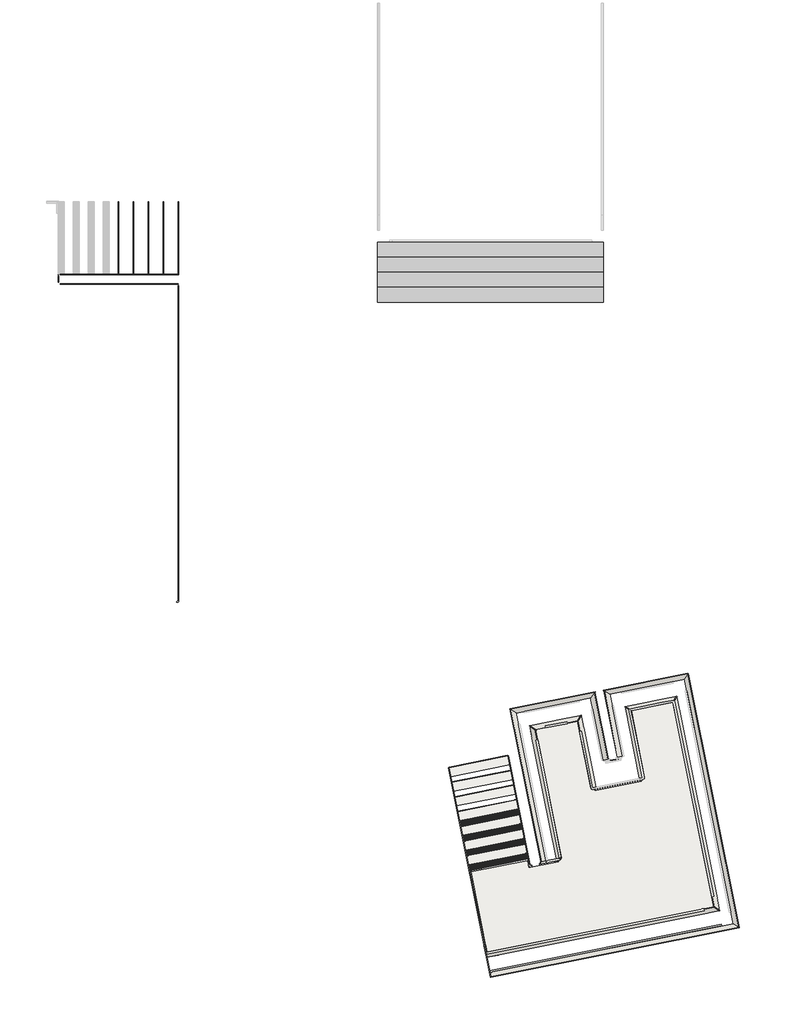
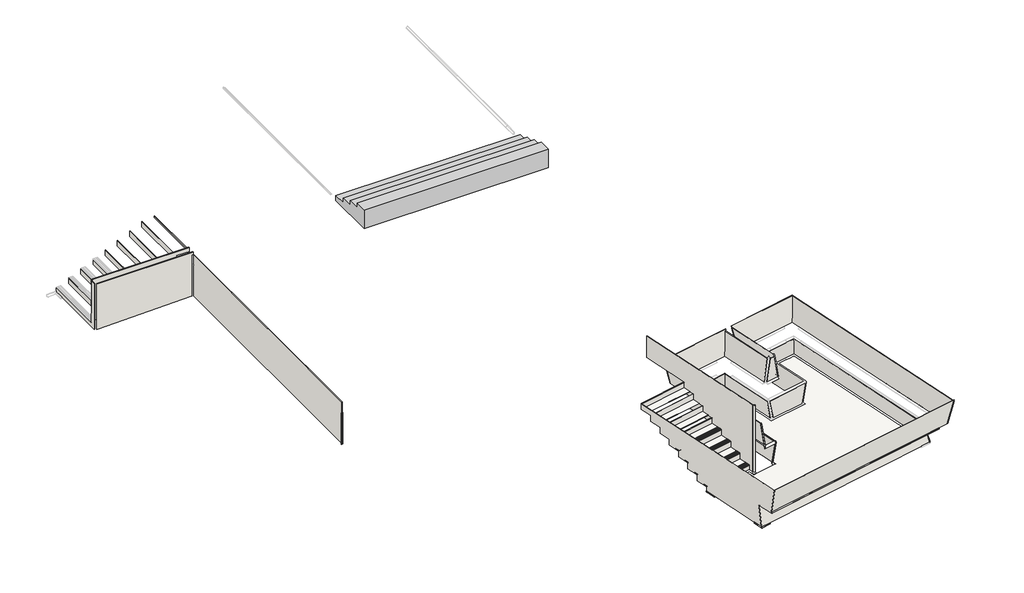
# One storey, part 1 of 2: 24 slabs, 23 walls, 3 proxies, 1 stair.
"""IFC4 building model written with IfcOpenShell, lengths in millimetres."""

from ifc_helpers import new_model, si_unit, point, frame, frame_2d, origin, place, context, project, spatial, polyline, circle_curve, trimmed, segment, composite_curve, outline, extrude, faceted_brep, transform, mapped, element, save
from components import pieza_115_aqua_azul_anti_slip_2f38e3b8, pieza_116_aqua_azul_liso_e9a23e22, slab_230d59c4, pieza_112_aqua_azul_liso_81c370b3, pieza_112_aqua_azul_liso_8ca1fe8c, pieza_112_aqua_azul_liso_170225c9, pieza_112_aqua_azul_liso_541d37f0, pieza_138_aqua_azul_liso_3ee0c762, pieza_138_aqua_azul_liso_c45b5ecf, pieza_138_aqua_azul_liso_85f08b2a, pieza_138_aqua_azul_liso_98b1347a, pieza_138_aqua_azul_liso_3f5a14d7, pieza_138_aqua_azul_liso_3f46d53b, escalera_p2_escalera_p2_1fe4a949, wall_3dee04b9

model = new_model("IFC4")

# Units and contexts
model_context = context("Model", 3, world=origin())
ifc_project = project(units=[si_unit("LENGTHUNIT", "METRE", prefix="MILLI")], contexts=[model_context])

# Site, building, storey
site = spatial("IfcSite", under=ifc_project)
building = spatial("IfcBuilding", under=site)
storey = spatial("IfcBuildingStorey", under=building, Name="4_NFondo1P1-P3 -1.2", Elevation=-1200.4)

# Proxies
placement = place(None, origin())
pieza_115_aqua_azul_anti_slip_shape = pieza_115_aqua_azul_anti_slip_2f38e3b8(model_context)
element("IfcBuildingElementProxy", 1, Name="ROSA GRES_115 : Pieza 115_Aqua_Azul_Anti-Slip", ObjectType="ROSA GRES_115 : Pieza 115_Aqua_Azul_Anti-Slip", at=placement, inside=storey, context=model_context, shape_type="MappedRepresentation", body=[
    mapped(pieza_115_aqua_azul_anti_slip_shape, transform((33107.40556, -40332.8949937, -690.4), x_axis=(0.9805675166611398, 0.19618191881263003, 0.0), y_axis=(-0.19618191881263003, 0.9805675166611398, 0.0), z_axis=(0.0, 0.0, 1.0))),
])
pieza_116_aqua_azul_liso_shape = pieza_116_aqua_azul_liso_e9a23e22(model_context)
element("IfcBuildingElementProxy", 2, Name="ROSA GRES_116 : Pieza 116_Aqua_Azul_Liso", ObjectType="ROSA GRES_116 : Pieza 116_Aqua_Azul_Liso", at=placement, inside=storey, context=model_context, shape_type="MappedRepresentation", body=[
    mapped(pieza_116_aqua_azul_liso_shape, transform((33015.1290333, -40351.3838609, -1210.5), x_axis=(0.9805674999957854, 0.1961820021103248, 0.0), y_axis=(-0.1961820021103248, 0.9805674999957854, 0.0), z_axis=(0.0, 0.0, 1.0))),
])
element("IfcBuildingElementProxy", 3, Name="ROSA GRES_116 : Pieza 116_Aqua_Azul_Liso", ObjectType="ROSA GRES_116 : Pieza 116_Aqua_Azul_Liso", at=placement, inside=storey, context=model_context, shape_type="MappedRepresentation", body=[
    mapped(pieza_116_aqua_azul_liso_shape, transform((32548.4612883, -40444.7500111, -1210.5), x_axis=(0.19618200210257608, -0.9805674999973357, 0.0), y_axis=(0.9805674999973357, 0.19618200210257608, 0.0), z_axis=(0.0, 0.0, 1.0))),
])

# Slabs
element("IfcSlab", 4, ObjectType="Pieza 244 G1_Patrón Recto_Aqua_Azul_Liso", at=placement, inside=storey, context=model_context, shape_type="SweptSolid", body=[
    extrude(outline(polyline([(32464.1269979, -40380.0372934), (32493.5542981, -40527.1224773), (33097.5014941, -40406.2908466), (32559.1513257, -37715.4790276), (33518.3634083, -37523.5696856), (33811.0101854, -38986.2932905), (34763.9631262, -38795.6362135), (34471.3163448, -37332.9125872), (35430.469737, -37141.0149874), (36273.1258379, -41352.8256063), (31680.0653011, -42271.7581672), (31346.3321381, -40603.6742554), (32464.1269979, -40380.0372934)])), frame((0.0, 0.0, -1209.4), z_axis=(0.0, 0.0, 1.0), x_axis=(1.0, 0.0, 0.0)), (0.0, 0.0, 1.0), 9.0),
])
element("IfcSlab", 5, ObjectType="Pieza 244 G1_Patrón Recto_Aqua_Azul_Anti-Slip", at=placement, inside=storey, context=model_context, shape_type="SweptSolid", body=[
    extrude(outline(polyline([(32464.7133799, -40229.9133646), (31288.0323353, -40465.3316695), (31252.1343545, -40285.9043577), (32428.8153975, -40050.4860531), (32464.7133799, -40229.9133646)])), frame((0.0, 0.0, -1059.4), z_axis=(0.0, 0.0, 1.0), x_axis=(1.0, 0.0, 0.0)), (0.0, 0.0, 1.0), 9.0),
])
element("IfcSlab", 6, ObjectType="Pieza 244 G1_Patrón Recto_Aqua_Azul_Anti-Slip", at=placement, inside=storey, context=model_context, shape_type="SweptSolid", body=[
    extrude(outline(polyline([(32405.86825, -39935.7903614), (31229.1872054, -40171.2086663), (31193.2892246, -39991.7813545), (32369.9702676, -39756.3630499), (32405.86825, -39935.7903614)])), frame((0.0, 0.0, -909.4), z_axis=(0.0, 0.0, 1.0), x_axis=(1.0, 0.0, 0.0)), (0.0, 0.0, 1.0), 9.0),
])
element("IfcSlab", 7, ObjectType="Pieza 244 G1_Patrón Recto_Aqua_Azul_Anti-Slip", at=placement, inside=storey, context=model_context, shape_type="SweptSolid", body=[
    extrude(outline(polyline([(32347.0136662, -39641.620105), (31170.3326215, -39877.0384099), (31134.4346407, -39697.6110981), (32311.1156837, -39462.1927935), (32347.0136662, -39641.620105)])), frame((0.0, 0.0, -759.4), z_axis=(0.0, 0.0, 1.0), x_axis=(1.0, 0.0, 0.0)), (0.0, 0.0, 1.0), 9.0),
])
element("IfcSlab", 8, ObjectType="Pieza 244 G1_Patrón Recto_Aqua_Azul_Anti-Slip", at=placement, inside=storey, context=model_context, shape_type="SweptSolid", body=[
    extrude(outline(polyline([(32288.1590835, -39347.4498545), (31111.4780389, -39582.8681593), (31075.580058, -39403.4408475), (32252.261101, -39168.022543), (32288.1590835, -39347.4498545)])), frame((0.0, 0.0, -609.4), z_axis=(0.0, 0.0, 1.0), x_axis=(1.0, 0.0, 0.0)), (0.0, 0.0, 1.0), 9.0),
])
element("IfcSlab", 9, ObjectType="Pieza 244 G1_Patrón Recto_Aqua_Azul_Anti-Slip", at=placement, inside=storey, context=model_context, shape_type="SweptSolid", body=[
    extrude(outline(polyline([(32229.304502, -39053.2796099), (31052.6234574, -39288.6979148), (31016.7254765, -39109.270603), (32193.4065196, -38873.8522985), (32229.304502, -39053.2796099)])), frame((0.0, 0.0, -459.4), z_axis=(0.0, 0.0, 1.0), x_axis=(1.0, 0.0, 0.0)), (0.0, 0.0, 1.0), 9.0),
])
element("IfcSlab", 10, ObjectType="Pieza 244 G1_Patrón Recto_Aqua_Azul_Anti-Slip", at=placement, inside=storey, context=model_context, shape_type="SweptSolid", body=[
    extrude(outline(polyline([(32170.4499169, -38759.1093475), (30993.7688723, -38994.5276524), (30957.8708915, -38815.1003406), (32134.5519345, -38579.682036), (32170.4499169, -38759.1093475)])), frame((0.0, 0.0, -309.4), z_axis=(0.0, 0.0, 1.0), x_axis=(1.0, 0.0, 0.0)), (0.0, 0.0, 1.0), 9.0),
])
element("IfcSlab", 11, ObjectType="Pieza 244 G1_Patrón Recto_Aqua_Azul_Anti-Slip", at=placement, inside=storey, context=model_context, shape_type="SweptSolid", body=[
    extrude(outline(polyline([(32111.5953368, -38464.93911), (30934.9142922, -38700.3574148), (30899.0163114, -38520.930103), (32075.6973544, -38285.5117985), (32111.5953368, -38464.93911)])), frame((0.0, 0.0, -159.4), z_axis=(0.0, 0.0, 1.0), x_axis=(1.0, 0.0, 0.0)), (0.0, 0.0, 1.0), 9.0),
])
slab_shape = slab_230d59c4(model_context)
element("IfcSlab", 12, ObjectType="ROSA GRES_003 : Pieza 003_Aqua_Marino_Anti-Slip", at=placement, inside=storey, context=model_context, shape_type="MappedRepresentation", body=[
    mapped(slab_shape, transform((31134.7979739, -39699.4269035, -609.4), x_axis=(0.980567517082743, 0.19618191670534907, 0.0), y_axis=(-0.19618191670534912, 0.9805675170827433, 0.0), z_axis=(0.0, 0.0, 1.0000000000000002))),
])
element("IfcSlab", 13, ObjectType="ROSA GRES_003 : Pieza 003_Aqua_Marino_Anti-Slip", at=placement, inside=storey, context=model_context, shape_type="MappedRepresentation", body=[
    mapped(slab_shape, transform((31193.6525605, -39993.5971737, -759.4), x_axis=(0.980567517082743, 0.19618191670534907, 0.0), y_axis=(-0.19618191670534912, 0.9805675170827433, 0.0), z_axis=(0.0, 0.0, 1.0000000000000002))),
])
element("IfcSlab", 14, ObjectType="ROSA GRES_003 : Pieza 003_Aqua_Marino_Anti-Slip", at=placement, inside=storey, context=model_context, shape_type="MappedRepresentation", body=[
    mapped(slab_shape, transform((31252.5071438, -40287.7674272, -909.4), x_axis=(0.980567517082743, 0.19618191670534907, 0.0), y_axis=(-0.19618191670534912, 0.9805675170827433, 0.0), z_axis=(0.0, 0.0, 1.0000000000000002))),
])
element("IfcSlab", 15, ObjectType="ROSA GRES_003 : Pieza 003_Aqua_Marino_Anti-Slip", at=placement, inside=storey, context=model_context, shape_type="MappedRepresentation", body=[
    mapped(slab_shape, transform((31311.3617304, -40581.9376974, -1059.4), x_axis=(0.980567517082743, 0.19618191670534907, 0.0), y_axis=(-0.19618191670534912, 0.9805675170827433, 0.0), z_axis=(0.0, 0.0, 1.0000000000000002))),
])
pieza_112_aqua_azul_liso_shape = pieza_112_aqua_azul_liso_81c370b3(model_context)
element("IfcSlab", 16, ObjectType="ROSA GRES_112 (corte) : Pieza 112_Aqua_Azul_Liso", at=placement, inside=storey, context=model_context, shape_type="MappedRepresentation", body=[
    mapped(pieza_112_aqua_azul_liso_shape, transform((31600.8000566, -42079.4624868, -1210.5), x_axis=(0.19618192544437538, -0.9805675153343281, 0.0), y_axis=(0.9805675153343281, 0.19618192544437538, 0.0), z_axis=(0.0, 0.0, 1.0))),
])
element("IfcSlab", 17, ObjectType="ROSA GRES_112 (corte) : Pieza 112_Aqua_Azul_Liso", at=placement, inside=storey, context=model_context, shape_type="MappedRepresentation", body=[
    mapped(pieza_112_aqua_azul_liso_shape, transform((31537.9628671, -40524.5420283, -1210.5), x_axis=(-0.9805675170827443, -0.19618191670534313, 0.0), y_axis=(0.19618191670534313, -0.9805675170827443, 0.0), z_axis=(0.0, 0.0, 1.0))),
])
pieza_112_aqua_azul_liso_2_shape = pieza_112_aqua_azul_liso_8ca1fe8c(model_context)
element("IfcSlab", 18, ObjectType="ROSA GRES_112 (corte) : Pieza 112_Aqua_Azul_Liso", at=placement, inside=storey, context=model_context, shape_type="MappedRepresentation", body=[
    mapped(pieza_112_aqua_azul_liso_2_shape, transform((31887.2392776, -42271.1016211, -1210.5), x_axis=(-0.9805675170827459, -0.19618191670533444, 0.0), y_axis=(0.19618191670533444, -0.9805675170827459, 0.0), z_axis=(0.0, 0.0, 1.0))),
])
element("IfcSlab", 19, ObjectType="ROSA GRES_112 (corte) : Pieza 112_Aqua_Azul_Liso", at=placement, inside=storey, context=model_context, shape_type="MappedRepresentation", body=[
    mapped(pieza_112_aqua_azul_liso_2_shape, transform((31347.0246767, -40811.0281314, -1210.5), x_axis=(-0.19618191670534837, 0.9805675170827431, 0.0), y_axis=(-0.9805675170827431, -0.19618191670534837, 0.0), z_axis=(0.0, 0.0, 1.0))),
])
pieza_112_aqua_azul_liso_3_shape = pieza_112_aqua_azul_liso_170225c9(model_context)
element("IfcSlab", 20, ObjectType="ROSA GRES_112 : Pieza 112_Aqua_Azul_Liso", at=placement, inside=storey, context=model_context, shape_type="MappedRepresentation", body=[
    mapped(pieza_112_aqua_azul_liso_3_shape, transform((25487.3567944, -35211.4665095, -357.0549087), x_axis=(0.0, 0.0, -1.0), y_axis=(-1.0, 0.0, 0.0), z_axis=(0.0, 1.0, 0.0))),
])
pieza_112_aqua_azul_liso_4_shape = pieza_112_aqua_azul_liso_541d37f0(model_context)
element("IfcSlab", 21, ObjectType="ROSA GRES_112 : Pieza 112_Aqua_Azul_Liso", at=placement, inside=storey, context=model_context, shape_type="MappedRepresentation", body=[
    mapped(pieza_112_aqua_azul_liso_4_shape, transform((31720.1473403, -42625.8744607, -660.5), x_axis=(0.9805675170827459, 0.19618191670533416, 0.0), y_axis=(-0.19618191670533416, 0.9805675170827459, 0.0), z_axis=(0.0, 0.0, 1.0))),
])
pieza_138_aqua_azul_liso_shape = pieza_138_aqua_azul_liso_3ee0c762(model_context)
element("IfcSlab", 22, ObjectType="ROSA GRES_138 : Pieza 138_Aqua_Azul_Liso", at=placement, inside=storey, context=model_context, shape_type="MappedRepresentation", body=[
    mapped(pieza_138_aqua_azul_liso_shape, transform((31646.2301571, -42255.7853273, -690.4), x_axis=(0.9805675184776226, 0.19618190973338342, 0.0), y_axis=(0.0, 0.0, -1.0000000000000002), z_axis=(-0.19618190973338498, 0.9805675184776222, 0.0))),
])
pieza_138_aqua_azul_liso_2_shape = pieza_138_aqua_azul_liso_c45b5ecf(model_context)
element("IfcSlab", 23, ObjectType="ROSA GRES_138 : Pieza 138_Aqua_Azul_Liso", at=placement, inside=storey, context=model_context, shape_type="MappedRepresentation", body=[
    mapped(pieza_138_aqua_azul_liso_2_shape, transform((33014.286461, -40351.5253108, -1170.8346375), x_axis=(0.18867536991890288, 0.03774823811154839, 0.9813137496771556), y_axis=(0.1961819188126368, -0.9805675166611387, 0.0), z_axis=(0.9622443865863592, 0.19251601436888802, -0.19241446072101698))),
])
pieza_138_aqua_azul_liso_3_shape = pieza_138_aqua_azul_liso_85f08b2a(model_context)
element("IfcSlab", 24, ObjectType="ROSA GRES_138 : Pieza 138_Aqua_Azul_Liso", at=placement, inside=storey, context=model_context, shape_type="MappedRepresentation", body=[
    mapped(pieza_138_aqua_azul_liso_3_shape, transform((33107.4055598, -40332.8949937, -690.4), x_axis=(-0.19618190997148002, 0.9805675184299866, 0.0), y_axis=(-0.9805675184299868, -0.19618190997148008, 0.0), z_axis=(0.0, 0.0, 1.0000000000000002))),
])
pieza_138_aqua_azul_liso_4_shape = pieza_138_aqua_azul_liso_98b1347a(model_context)
element("IfcSlab", 25, ObjectType="ROSA GRES_138 : Pieza 138_Aqua_Azul_Liso", at=placement, inside=storey, context=model_context, shape_type="MappedRepresentation", body=[
    mapped(pieza_138_aqua_azul_liso_4_shape, transform((33107.4055598, -40332.8949937, -690.4), x_axis=(-0.9805675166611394, -0.19618191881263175, 0.0), y_axis=(0.1961819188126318, -0.9805675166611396, 0.0), z_axis=(0.0, 0.0, 1.0000000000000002))),
])
pieza_138_aqua_azul_liso_5_shape = pieza_138_aqua_azul_liso_3f5a14d7(model_context)
element("IfcSlab", 26, ObjectType="ROSA GRES_138 : Pieza 138_Aqua_Azul_Liso", at=placement, inside=storey, context=model_context, shape_type="MappedRepresentation", body=[
    mapped(pieza_138_aqua_azul_liso_5_shape, transform((32704.7662203, -40413.4510741, -25.6674653), x_axis=(0.15514921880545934, 0.031040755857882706, -0.9874032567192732), y_axis=(-0.1961819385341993, 0.9805675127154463, 8.330643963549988e-08), z_axis=(0.9682155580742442, 0.1937106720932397, 0.15822391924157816))),
])
pieza_138_aqua_azul_liso_6_shape = pieza_138_aqua_azul_liso_3f46d53b(model_context)
element("IfcSlab", 27, ObjectType="ROSA GRES_138 : Pieza 138_Aqua_Azul_Liso", at=placement, inside=storey, context=model_context, shape_type="MappedRepresentation", body=[
    mapped(pieza_138_aqua_azul_liso_6_shape, transform((32548.4613093, -40444.7500072, 559.6), x_axis=(0.0, 0.0, -1.0), y_axis=(0.1961819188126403, -0.9805675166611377, 0.0), z_axis=(-0.9805675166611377, -0.1961819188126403, 0.0))),
])

# Stair
escalera_p2_escalera_p2_shape = escalera_p2_escalera_p2_1fe4a949(model_context)
element("IfcStair", 28, ObjectType="Escalera P2 : Escalera P2", at=placement, inside=storey, context=model_context, shape_type="MappedRepresentation", body=[
    mapped(escalera_p2_escalera_p2_shape, transform((0.0, 0.0, 0.0), x_axis=(1.0, 0.0, 0.0), y_axis=(0.0, 1.0, 0.0), z_axis=(0.0, 0.0, 1.0))),
])

# Walls
element("IfcWall", 29, ObjectType="Pieza 244 G1_Patrón Recto_Aqua_Azul_Liso", at=placement, inside=storey, context=model_context, shape_type="SweptSolid", body=[
    extrude(outline(polyline([(25477.4363125, -35171.4665095), (25477.4363125, -28881.4665095), (25486.4363125, -28881.4665095), (25486.4363125, -35171.4665095), (25477.4363125, -35171.4665095)])), frame((0.0, 0.0, -1170.4), z_axis=(0.0, 0.0, 1.0), x_axis=(1.0, 0.0, 0.0)), (0.0, 0.0, 1.0), 1063.3450913),
])
element("IfcWall", 30, ObjectType="Pieza 244 G1_Patrón Recto_Aqua_Azul_Liso", at=placement, inside=storey, context=model_context, shape_type="SweptSolid", body=[
    extrude(outline(polyline([(-1227.3361664, 23117.3978394), (-1171.1286481, 25447.4377977), (-107.0549087, 25447.4377977), (-107.0549087, 25477.4363125), (-40.4, 25477.4363125), (-40.4, 23117.3978394), (-1227.3361664, 23117.3978394)])), frame((0.0, -28851.493098, 0.0), z_axis=(0.0, 1.0, 0.0), x_axis=(0.0, 0.0, 1.0)), (0.0, 0.0, 1.0), 9.0),
])
element("IfcWall", 31, ObjectType="Pieza 244 G1_Patrón Recto_Aqua_Azul_Liso", at=placement, inside=storey, context=model_context, shape_type="SweptSolid", body=[
    extrude(outline(polyline([(-1117.9281195, 23117.4363125), (-1117.9281195, 23377.3939906), (-987.0881195, 23377.3939906), (-987.0881195, 23677.3939906), (-847.2481195, 23677.3939906), (-847.2481195, 23977.3939906), (-707.4081195, 23977.3939906), (-707.4081195, 24277.3939906), (-567.5681195, 24277.3939906), (-567.5681195, 24577.3939906), (-427.7281195, 24577.3939906), (-427.7281195, 24877.3939906), (-287.8881195, 24877.3939906), (-287.8881195, 25177.3939906), (-148.0481195, 25177.3939906), (-148.0481195, 25491.9363125), (-40.4, 25491.9363125), (-40.4, 23117.4363125), (-1117.9281195, 23117.4363125)])), frame((0.0, -28660.493098, 0.0), z_axis=(0.0, 1.0, 0.0), x_axis=(0.0, 0.0, 1.0)), (0.0, 0.0, 1.0), 9.0),
])
element("IfcWall", 32, ObjectType="Pieza 244 G1_Patrón Recto_Aqua_Azul_Liso", at=placement, inside=storey, context=model_context, shape_type="Brep", body=[
    faceted_brep([(23077.4363125, -27201.493098, -1230.4), (23077.4363125, -28811.5196866, -1230.4), (23077.4363125, -28811.5196866, -40.4), (23077.4363125, -28691.493098, -40.4), (23077.4363125, -28691.493098, -1126.9281195), (23077.4363125, -27201.493098, -1126.9281195), (23086.4363125, -27201.493098, -1230.4), (23086.4363125, -27201.493098, -1228.2026674), (23086.4363125, -27201.493098, -1126.9281195), (23086.4363125, -28691.493098, -1126.9281195), (23086.4363125, -28691.493098, -40.4), (23086.4363125, -28811.5196866, -40.4), (23086.4363125, -28811.5196866, -1230.4)], [[[0, 1, 2, 3, 4, 5]], [[6, 7, 8, 9, 10, 11, 12]], [[1, 0, 6, 12]], [[2, 1, 12, 11]], [[3, 2, 11, 10]], [[4, 3, 10, 9]], [[5, 4, 9, 8]], [[0, 5, 8, 7, 6]]]),
])
element("IfcWall", 33, ObjectType="Pieza 244 G1_Patrón Recto_Aqua_Azul_Liso", at=placement, inside=storey, context=model_context, shape_type="SweptSolid", body=[
    extrude(outline(polyline([(23377.3939906, -28651.493098), (23377.3939906, -27201.5439999), (23386.3939906, -27201.5439999), (23386.3939906, -28651.493098), (23377.3939906, -28651.493098)])), frame((0.0, 0.0, -1126.9281195), z_axis=(0.0, 0.0, 1.0), x_axis=(1.0, 0.0, 0.0)), (0.0, 0.0, 1.0), 139.84),
])
element("IfcWall", 34, ObjectType="Pieza 244 G1_Patrón Recto_Aqua_Azul_Liso", at=placement, inside=storey, context=model_context, shape_type="SweptSolid", body=[
    extrude(outline(polyline([(23677.3939906, -28651.493098), (23677.3939906, -27201.5439999), (23686.3939906, -27201.5439999), (23686.3939906, -28651.493098), (23677.3939906, -28651.493098)])), frame((0.0, 0.0, -987.0881195), z_axis=(0.0, 0.0, 1.0), x_axis=(1.0, 0.0, 0.0)), (0.0, 0.0, 1.0), 139.84),
])
element("IfcWall", 35, ObjectType="Pieza 244 G1_Patrón Recto_Aqua_Azul_Liso", at=placement, inside=storey, context=model_context, shape_type="SweptSolid", body=[
    extrude(outline(polyline([(23977.3939906, -28651.493098), (23977.3939906, -27201.5439999), (23986.3939906, -27201.5439999), (23986.3939906, -28651.493098), (23977.3939906, -28651.493098)])), frame((0.0, 0.0, -847.2481195), z_axis=(0.0, 0.0, 1.0), x_axis=(1.0, 0.0, 0.0)), (0.0, 0.0, 1.0), 139.84),
])
element("IfcWall", 36, ObjectType="Pieza 244 G1_Patrón Recto_Aqua_Azul_Liso", at=placement, inside=storey, context=model_context, shape_type="SweptSolid", body=[
    extrude(outline(polyline([(24277.3939906, -28651.493098), (24277.3939906, -27201.5439999), (24286.3939906, -27201.5439999), (24286.3939906, -28651.493098), (24277.3939906, -28651.493098)])), frame((0.0, 0.0, -707.4081195), z_axis=(0.0, 0.0, 1.0), x_axis=(1.0, 0.0, 0.0)), (0.0, 0.0, 1.0), 139.84),
])
element("IfcWall", 37, ObjectType="Pieza 244 G1_Patrón Recto_Aqua_Azul_Liso", at=placement, inside=storey, context=model_context, shape_type="SweptSolid", body=[
    extrude(outline(polyline([(24577.3939906, -28651.493098), (24577.3939906, -27201.5439999), (24586.3939906, -27201.5439999), (24586.3939906, -28651.493098), (24577.3939906, -28651.493098)])), frame((0.0, 0.0, -567.5681195), z_axis=(0.0, 0.0, 1.0), x_axis=(1.0, 0.0, 0.0)), (0.0, 0.0, 1.0), 139.84),
])
element("IfcWall", 38, ObjectType="Pieza 244 G1_Patrón Recto_Aqua_Azul_Liso", at=placement, inside=storey, context=model_context, shape_type="SweptSolid", body=[
    extrude(outline(polyline([(24877.3939906, -28651.493098), (24877.3939906, -27201.5439999), (24886.3939906, -27201.5439999), (24886.3939906, -28651.493098), (24877.3939906, -28651.493098)])), frame((0.0, 0.0, -427.7281195), z_axis=(0.0, 0.0, 1.0), x_axis=(1.0, 0.0, 0.0)), (0.0, 0.0, 1.0), 139.84),
])
element("IfcWall", 39, ObjectType="Pieza 244 G1_Patrón Recto_Aqua_Azul_Liso", at=placement, inside=storey, context=model_context, shape_type="SweptSolid", body=[
    extrude(outline(polyline([(25177.3939906, -28651.493098), (25177.3939906, -27201.5439999), (25186.3939906, -27201.5439999), (25186.3939906, -28651.493098), (25177.3939906, -28651.493098)])), frame((0.0, 0.0, -287.8881195), z_axis=(0.0, 0.0, 1.0), x_axis=(1.0, 0.0, 0.0)), (0.0, 0.0, 1.0), 139.84),
])
element("IfcWall", 40, ObjectType="Pieza 244 G1_Patrón Recto_Aqua_Azul_Liso", at=placement, inside=storey, context=model_context, shape_type="SweptSolid", body=[
    extrude(outline(polyline([(25477.4363125, -28651.493098), (25477.4363125, -27201.5439999), (25486.4363125, -27201.5439999), (25486.4363125, -28651.493098), (25477.4363125, -28651.493098)])), frame((0.0, 0.0, -148.0481195), z_axis=(0.0, 0.0, 1.0), x_axis=(1.0, 0.0, 0.0)), (0.0, 0.0, 1.0), 40.9932109),
])
element("IfcWall", 41, ObjectType="Pieza 244 G1_Patrón Recto_Aqua_Azul_Liso", at=placement, inside=storey, context=model_context, shape_type="SweptSolid", body=[
    extrude(outline(composite_curve([segment(polyline([(-182.9831624, 0.0), (117.0168434, 0.0), (117.0168434, 150.0), (417.0168525, 150.0), (417.0168525, 300.0), (717.0168434, 300.0), (717.0168434, 450.0), (1017.0168525, 450.0), (1017.0168525, 600.0), (1317.0168434, 600.0), (1317.0168434, 750.0), (1617.0168434, 750.0), (1617.0168434, 900.0), (1917.0168434, 900.0), (1917.0168434, 1011.0), (3678.1921151, 1011.0), (3585.8844367, 531.0000698)]), True, "CONTINUOUS"), segment(trimmed(circle_curve(frame_2d((3625.8844741, 531.0000698)), 40.0000375), [point((3585.8844367, 531.0000698))], [point((3625.8844741, 491.0000324))], True, "CARTESIAN"), True, "CONTINUOUS"), segment(polyline([(3625.8844741, 491.0000324), (3960.5333935, 491.0000324)]), True, "CONTINUOUS"), segment(trimmed(circle_curve(frame_2d((3963.2874674, 461.1044605)), 30.0221609), [point((3960.5333935, 491.0000324))], [point((3993.3095477, 461.0349092))], False, "CARTESIAN"), True, "CONTINUOUS"), segment(polyline([(3993.3095477, 461.0349092), (4088.6128212, -147.0), (-182.9831624, -147.0), (-182.9831624, 0.0)]), True, "CONTINUOUS")], self_intersect=False)), frame((30926.0892341, -38702.1230422, -159.4), z_axis=(0.9805675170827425, 0.19618191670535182, 0.0), x_axis=(0.19618191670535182, -0.9805675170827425, 0.0)), (0.0, 0.0, 1.0), 9.0),
])
element("IfcWall", 42, ObjectType="Pieza 244 G1_Patrón Recto_Aqua_Azul_Liso", at=placement, inside=storey, context=model_context, shape_type="SweptSolid", body=[
    extrude(outline(polyline([(32487.6794228, -40344.7035359), (31310.9983811, -40580.1218511), (31309.2327438, -40571.2967434), (32485.9137855, -40335.8784283), (32487.6794228, -40344.7035359)])), frame((0.0, 0.0, -1170.4), z_axis=(0.0, 0.0, 1.0), x_axis=(1.0, 0.0, 0.0)), (0.0, 0.0, 1.0), 111.0),
])
element("IfcWall", 43, ObjectType="Pieza 244 G1_Patrón Recto_Aqua_Azul_Liso", at=placement, inside=storey, context=model_context, shape_type="SweptSolid", body=[
    extrude(outline(polyline([(32428.82485, -40050.5332803), (31252.1438083, -40285.9515955), (31250.378171, -40277.1264879), (32427.0592126, -40041.7081727), (32428.82485, -40050.5332803)])), frame((0.0, 0.0, -1059.4), z_axis=(0.0, 0.0, 1.0), x_axis=(1.0, 0.0, 0.0)), (0.0, 0.0, 1.0), 150.0),
])
element("IfcWall", 44, ObjectType="Pieza 244 G1_Patrón Recto_Aqua_Azul_Liso", at=placement, inside=storey, context=model_context, shape_type="SweptSolid", body=[
    extrude(outline(polyline([(32369.9702667, -39756.3630269), (31193.2892251, -39991.781342), (31191.5235877, -39982.9562344), (32368.2046294, -39747.5379192), (32369.9702667, -39756.3630269)])), frame((0.0, 0.0, -909.4), z_axis=(0.0, 0.0, 1.0), x_axis=(1.0, 0.0, 0.0)), (0.0, 0.0, 1.0), 150.0),
])
element("IfcWall", 45, ObjectType="Pieza 244 G1_Patrón Recto_Aqua_Azul_Liso", at=placement, inside=storey, context=model_context, shape_type="SweptSolid", body=[
    extrude(outline(polyline([(32311.1156852, -39462.1927823), (31134.4346436, -39697.6110975), (31132.6690062, -39688.7859899), (32309.3500479, -39453.3676747), (32311.1156852, -39462.1927823)])), frame((0.0, 0.0, -759.4), z_axis=(0.0, 0.0, 1.0), x_axis=(1.0, 0.0, 0.0)), (0.0, 0.0, 1.0), 150.0),
])
element("IfcWall", 46, ObjectType="Pieza 244 G1_Patrón Recto_Aqua_Azul_Liso", at=placement, inside=storey, context=model_context, shape_type="SweptSolid", body=[
    extrude(outline(polyline([(32252.2611002, -39168.0225199), (31075.5800585, -39403.4408351), (31073.8144212, -39394.6157275), (32250.4954628, -39159.1974123), (32252.2611002, -39168.0225199)])), frame((0.0, 0.0, -609.4), z_axis=(0.0, 0.0, 1.0), x_axis=(1.0, 0.0, 0.0)), (0.0, 0.0, 1.0), 150.0),
])
element("IfcWall", 47, ObjectType="Pieza 244 G1_Patrón Recto_Aqua_Azul_Liso", at=placement, inside=storey, context=model_context, shape_type="SweptSolid", body=[
    extrude(outline(polyline([(32193.4065187, -38873.8522754), (31016.725477, -39109.2705906), (31014.9598397, -39100.4454829), (32191.6408813, -38865.0271678), (32193.4065187, -38873.8522754)])), frame((0.0, 0.0, -459.4), z_axis=(0.0, 0.0, 1.0), x_axis=(1.0, 0.0, 0.0)), (0.0, 0.0, 1.0), 150.0),
])
element("IfcWall", 48, ObjectType="Pieza 244 G1_Patrón Recto_Aqua_Azul_Liso", at=placement, inside=storey, context=model_context, shape_type="SweptSolid", body=[
    extrude(outline(polyline([(32134.5519336, -38579.682013), (30957.870892, -38815.1003282), (30956.1052546, -38806.2752205), (32132.7862963, -38570.8569053), (32134.5519336, -38579.682013)])), frame((0.0, 0.0, -309.4), z_axis=(0.0, 0.0, 1.0), x_axis=(1.0, 0.0, 0.0)), (0.0, 0.0, 1.0), 150.0),
])
element("IfcWall", 49, ObjectType="Pieza 244 G1_Patrón Recto_Aqua_Azul_Liso", at=placement, inside=storey, context=model_context, shape_type="SweptSolid", body=[
    extrude(outline(polyline([(32075.6973503, -38285.5117594), (30899.0163087, -38520.9300746), (30897.2506713, -38512.1049669), (32073.931713, -38276.6866517), (32075.6973503, -38285.5117594)])), frame((0.0, 0.0, -159.4), z_axis=(0.0, 0.0, 1.0), x_axis=(1.0, 0.0, 0.0)), (0.0, 0.0, 1.0), 147.0),
])
element("IfcWall", 50, ObjectType="Pieza 244 G1_Patrón Recto_Aqua_Azul_Liso", at=placement, inside=storey, context=model_context, shape_type="SweptSolid", body=[
    extrude(outline(polyline([(14210.7747471, 0.0), (15406.0113219, 0.0), (15406.0113219, 159.0), (15706.0113221, 159.0), (15706.0113221, 309.0), (16006.0113311, 309.0), (16006.0113311, 459.0), (16306.011322, 459.0), (16306.011322, 609.0), (16606.0113311, 609.0), (16606.0113311, 759.0), (16906.0113221, 759.0), (16906.0113221, 909.0), (17206.011322, 909.0), (17206.011322, 1059.0), (17506.011322, 1059.0), (17506.011322, 1170.0), (17615.7747471, 1170.0), (17615.7747471, -560.0), (14210.7747471, -560.0), (14210.7747471, 0.0)])), frame((29053.3153287, -23178.8777281, -0.4), z_axis=(0.9805674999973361, 0.19618200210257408, 0.0), x_axis=(0.19618200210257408, -0.9805674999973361, 0.0)), (0.0, 0.0, 1.0), 9.0),
])
wall_shape = wall_3dee04b9(model_context)
element("IfcWall", 51, ObjectType="M_insitu 244 G2 Azul Liso P3 : M_insitu 244 G2 Azul Liso P3", at=placement, inside=storey, context=model_context, shape_type="MappedRepresentation", body=[
    mapped(wall_shape, transform((0.0, 0.0, 0.0), x_axis=(1.0, 0.0, 0.0), y_axis=(0.0, 1.0, 0.0), z_axis=(0.0, 0.0, 1.0))),
])

save(model, "model.ifc")
